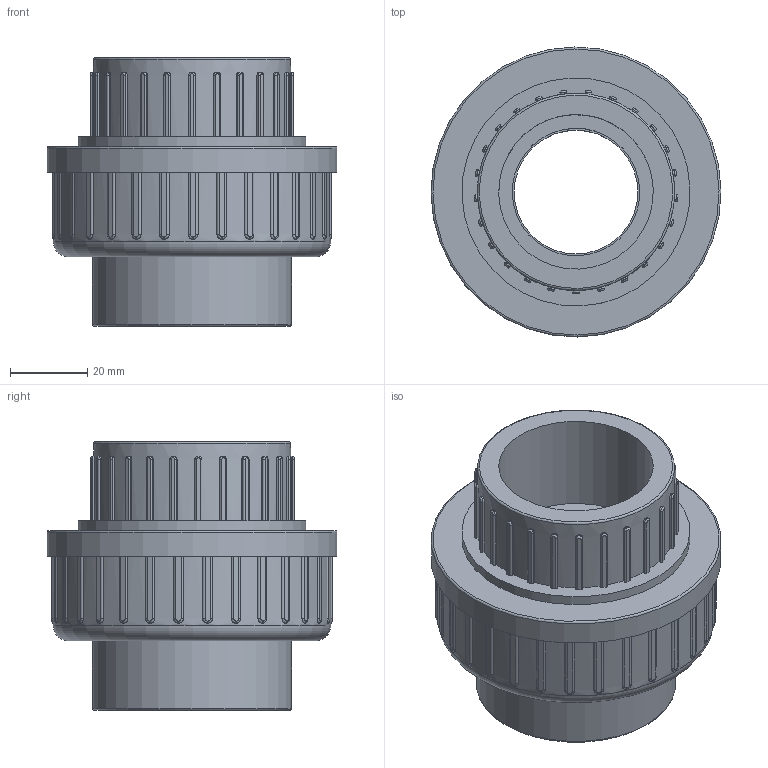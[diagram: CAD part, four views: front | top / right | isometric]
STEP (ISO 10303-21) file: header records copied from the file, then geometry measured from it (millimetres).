
FILE_DESCRIPTION(/* description */ (''),/* implementation_level */ '2;1');
FILE_NAME(/* name */ 'C:\Users\POLYPIPE\Desktop\DATASET INVENTOR\LIBRERIA EFFAST\3D_RACCORDI\RDR\3D_RDRBOD\3D_RDRBOD0400.stp',/* time_stamp */ '2018-01-22T10:24:42+01:00',/* author */ ('POLYPIPE'),/* organization */ (''),/* preprocessor_version */ 'ST-DEVELOPER v16.1',/* originating_system */ 'Autodesk Inventor 2016',/* authorisation */ '');
FILE_SCHEMA (('CONFIG_CONTROL_DESIGN'));
Length unit declared in the file: centimetre
Products named in the file (1): 3D_RDRBOD
Bounding box: 75 x 75 x 69.5 mm (x, y, z)
Volume: 122561.5 mm3; surface area: 33553.2 mm2
Topology: 1 solids, 2 shells, 353 faces, 995 edges, 654 vertices
Faces by surface type: cylinder 147, plane 117, bspline 85, torus 4
Full cylindrical faces by diameter (mm): 32 x1, 33 x1, 40 x2, 51 x1, 51.5 x1, 54.2 x1, 56.5 x1, 57.2 x1, 59 x1, 71.8 x1, 75 x1
Entity records: 14009 total; most frequent: CARTESIAN_POINT 4821, ORIENTED_EDGE 1952, DIRECTION 1725, EDGE_CURVE 976, VERTEX_POINT 651, AXIS2_PLACEMENT_3D 650, LINE 425, VECTOR 425
